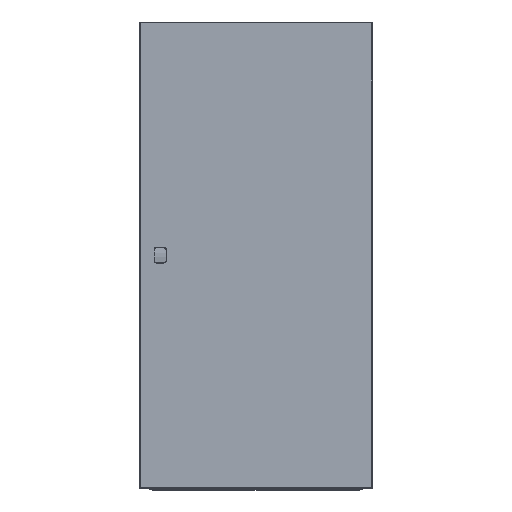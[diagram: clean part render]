
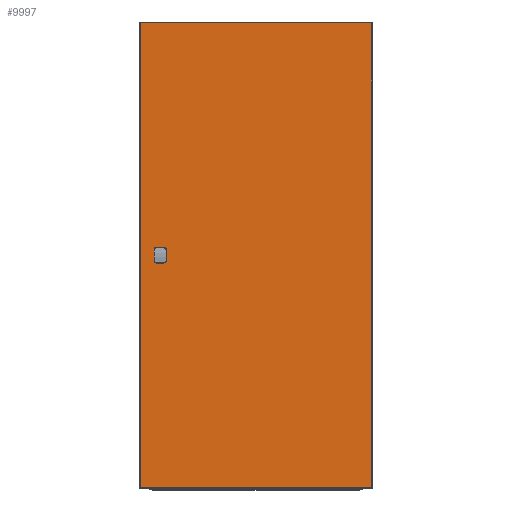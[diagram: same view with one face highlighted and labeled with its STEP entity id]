
A CAD part, top view. The second image highlights one B-rep face of the part: STEP entity #9997.
In plain terms, the highlighted planar face has unit normal (0, 0, 1).
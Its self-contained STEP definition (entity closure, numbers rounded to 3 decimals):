
#472=CIRCLE('',#11355,11.3);
#473=CIRCLE('',#11356,11.3);
#474=CIRCLE('',#11357,1.25);
#475=CIRCLE('',#11358,11.3);
#476=CIRCLE('',#11359,11.3);
#477=CIRCLE('',#11360,1.25);
#1462=ORIENTED_EDGE('',*,*,#3878,.F.);
#1463=ORIENTED_EDGE('',*,*,#3879,.F.);
#1464=ORIENTED_EDGE('',*,*,#3880,.F.);
#1465=ORIENTED_EDGE('',*,*,#3881,.F.);
#1466=ORIENTED_EDGE('',*,*,#3882,.F.);
#1467=ORIENTED_EDGE('',*,*,#3883,.F.);
#1468=ORIENTED_EDGE('',*,*,#3884,.F.);
#1469=ORIENTED_EDGE('',*,*,#3885,.F.);
#1470=ORIENTED_EDGE('',*,*,#3886,.F.);
#1471=ORIENTED_EDGE('',*,*,#3887,.F.);
#1472=ORIENTED_EDGE('',*,*,#3888,.F.);
#1473=ORIENTED_EDGE('',*,*,#3889,.F.);
#1474=ORIENTED_EDGE('',*,*,#3890,.F.);
#1475=ORIENTED_EDGE('',*,*,#3891,.F.);
#1476=ORIENTED_EDGE('',*,*,#3892,.F.);
#1477=ORIENTED_EDGE('',*,*,#3893,.F.);
#1478=ORIENTED_EDGE('',*,*,#3894,.T.);
#1479=ORIENTED_EDGE('',*,*,#3895,.F.);
#1480=ORIENTED_EDGE('',*,*,#3896,.F.);
#1481=ORIENTED_EDGE('',*,*,#3876,.T.);
#3876=EDGE_CURVE('',#5150,#5149,#6065,.T.);
#3878=EDGE_CURVE('',#5151,#5152,#472,.T.);
#3879=EDGE_CURVE('',#5153,#5151,#6067,.T.);
#3880=EDGE_CURVE('',#5154,#5153,#473,.T.);
#3881=EDGE_CURVE('',#5155,#5154,#6068,.T.);
#3882=EDGE_CURVE('',#5156,#5155,#6069,.T.);
#3883=EDGE_CURVE('',#5157,#5156,#474,.T.);
#3884=EDGE_CURVE('',#5158,#5157,#6070,.T.);
#3885=EDGE_CURVE('',#5159,#5158,#6071,.T.);
#3886=EDGE_CURVE('',#5160,#5159,#475,.T.);
#3887=EDGE_CURVE('',#5161,#5160,#6072,.T.);
#3888=EDGE_CURVE('',#5162,#5161,#476,.T.);
#3889=EDGE_CURVE('',#5163,#5162,#6073,.T.);
#3890=EDGE_CURVE('',#5164,#5163,#6074,.T.);
#3891=EDGE_CURVE('',#5165,#5164,#477,.T.);
#3892=EDGE_CURVE('',#5166,#5165,#6075,.T.);
#3893=EDGE_CURVE('',#5152,#5166,#6076,.T.);
#3894=EDGE_CURVE('',#5149,#5167,#6077,.T.);
#3895=EDGE_CURVE('',#5168,#5167,#6078,.T.);
#3896=EDGE_CURVE('',#5150,#5168,#6079,.T.);
#5149=VERTEX_POINT('',#16026);
#5150=VERTEX_POINT('',#16028);
#5151=VERTEX_POINT('',#16032);
#5152=VERTEX_POINT('',#16033);
#5153=VERTEX_POINT('',#16035);
#5154=VERTEX_POINT('',#16037);
#5155=VERTEX_POINT('',#16039);
#5156=VERTEX_POINT('',#16041);
#5157=VERTEX_POINT('',#16043);
#5158=VERTEX_POINT('',#16045);
#5159=VERTEX_POINT('',#16047);
#5160=VERTEX_POINT('',#16049);
#5161=VERTEX_POINT('',#16051);
#5162=VERTEX_POINT('',#16053);
#5163=VERTEX_POINT('',#16055);
#5164=VERTEX_POINT('',#16057);
#5165=VERTEX_POINT('',#16059);
#5166=VERTEX_POINT('',#16061);
#5167=VERTEX_POINT('',#16064);
#5168=VERTEX_POINT('',#16066);
#6065=LINE('',#16027,#7014);
#6067=LINE('',#16034,#7016);
#6068=LINE('',#16038,#7017);
#6069=LINE('',#16040,#7018);
#6070=LINE('',#16044,#7019);
#6071=LINE('',#16046,#7020);
#6072=LINE('',#16050,#7021);
#6073=LINE('',#16054,#7022);
#6074=LINE('',#16056,#7023);
#6075=LINE('',#16060,#7024);
#6076=LINE('',#16062,#7025);
#6077=LINE('',#16063,#7026);
#6078=LINE('',#16065,#7027);
#6079=LINE('',#16067,#7028);
#7014=VECTOR('',#13000,1000.);
#7016=VECTOR('',#13006,1000.);
#7017=VECTOR('',#13009,1000.);
#7018=VECTOR('',#13010,1000.);
#7019=VECTOR('',#13013,1000.);
#7020=VECTOR('',#13014,1000.);
#7021=VECTOR('',#13017,1000.);
#7022=VECTOR('',#13020,1000.);
#7023=VECTOR('',#13021,1000.);
#7024=VECTOR('',#13024,1000.);
#7025=VECTOR('',#13025,1000.);
#7026=VECTOR('',#13026,1000.);
#7027=VECTOR('',#13027,1000.);
#7028=VECTOR('',#13028,1000.);
#7963=EDGE_LOOP('',(#1462,#1463,#1464,#1465,#1466,#1467,#1468,#1469,#1470,
#1471,#1472,#1473,#1474,#1475,#1476,#1477));
#7964=EDGE_LOOP('',(#1478,#1479,#1480,#1481));
#8826=FACE_BOUND('',#7963,.T.);
#8827=FACE_BOUND('',#7964,.T.);
#9504=PLANE('',#11354);
#9997=ADVANCED_FACE('',(#8826,#8827),#9504,.F.);
#11354=AXIS2_PLACEMENT_3D('',#16030,#13002,#13003);
#11355=AXIS2_PLACEMENT_3D('',#16031,#13004,#13005);
#11356=AXIS2_PLACEMENT_3D('',#16036,#13007,#13008);
#11357=AXIS2_PLACEMENT_3D('',#16042,#13011,#13012);
#11358=AXIS2_PLACEMENT_3D('',#16048,#13015,#13016);
#11359=AXIS2_PLACEMENT_3D('',#16052,#13018,#13019);
#11360=AXIS2_PLACEMENT_3D('',#16058,#13022,#13023);
#13000=DIRECTION('',(0.,-1.,0.));
#13002=DIRECTION('',(0.,0.,-1.));
#13003=DIRECTION('',(-1.,0.,0.));
#13004=DIRECTION('',(0.,0.,1.));
#13005=DIRECTION('',(1.,0.,0.));
#13006=DIRECTION('',(0.,-1.,0.));
#13007=DIRECTION('',(0.,0.,1.));
#13008=DIRECTION('',(1.,0.,0.));
#13009=DIRECTION('',(-1.,0.,0.));
#13010=DIRECTION('',(0.,-1.,0.));
#13011=DIRECTION('',(0.,0.,1.));
#13012=DIRECTION('',(1.,0.,0.));
#13013=DIRECTION('',(0.,1.,0.));
#13014=DIRECTION('',(-1.,0.,0.));
#13015=DIRECTION('',(0.,0.,1.));
#13016=DIRECTION('',(1.,0.,0.));
#13017=DIRECTION('',(0.,1.,0.));
#13018=DIRECTION('',(0.,0.,1.));
#13019=DIRECTION('',(1.,0.,0.));
#13020=DIRECTION('',(1.,0.,0.));
#13021=DIRECTION('',(0.,1.,0.));
#13022=DIRECTION('',(0.,0.,1.));
#13023=DIRECTION('',(1.,0.,0.));
#13024=DIRECTION('',(0.,-1.,0.));
#13025=DIRECTION('',(1.,0.,0.));
#13026=DIRECTION('',(1.,0.,0.));
#13027=DIRECTION('',(0.,-1.,0.));
#13028=DIRECTION('',(1.,0.,0.));
#16026=CARTESIAN_POINT('',(-297.5,-597.5,0.));
#16027=CARTESIAN_POINT('',(-297.5,597.5,0.));
#16028=CARTESIAN_POINT('',(-297.5,597.5,0.));
#16030=CARTESIAN_POINT('',(-297.5,597.5,0.));
#16031=CARTESIAN_POINT('',(-247.5,0.,0.));
#16032=CARTESIAN_POINT('',(-257.65,-4.967,0.));
#16033=CARTESIAN_POINT('',(-252.467,-10.15,0.));
#16034=CARTESIAN_POINT('',(-257.65,4.967,0.));
#16035=CARTESIAN_POINT('',(-257.65,4.967,0.));
#16036=CARTESIAN_POINT('',(-247.5,0.,0.));
#16037=CARTESIAN_POINT('',(-252.467,10.15,0.));
#16038=CARTESIAN_POINT('',(-248.75,10.15,0.));
#16039=CARTESIAN_POINT('',(-248.75,10.15,0.));
#16040=CARTESIAN_POINT('',(-248.75,10.75,0.));
#16041=CARTESIAN_POINT('',(-248.75,10.75,0.));
#16042=CARTESIAN_POINT('',(-247.5,10.75,0.));
#16043=CARTESIAN_POINT('',(-246.25,10.75,0.));
#16044=CARTESIAN_POINT('',(-246.25,10.15,0.));
#16045=CARTESIAN_POINT('',(-246.25,10.15,0.));
#16046=CARTESIAN_POINT('',(-242.533,10.15,0.));
#16047=CARTESIAN_POINT('',(-242.533,10.15,0.));
#16048=CARTESIAN_POINT('',(-247.5,0.,0.));
#16049=CARTESIAN_POINT('',(-237.35,4.967,0.));
#16050=CARTESIAN_POINT('',(-237.35,-4.967,0.));
#16051=CARTESIAN_POINT('',(-237.35,-4.967,0.));
#16052=CARTESIAN_POINT('',(-247.5,0.,0.));
#16053=CARTESIAN_POINT('',(-242.533,-10.15,0.));
#16054=CARTESIAN_POINT('',(-246.25,-10.15,0.));
#16055=CARTESIAN_POINT('',(-246.25,-10.15,0.));
#16056=CARTESIAN_POINT('',(-246.25,-10.75,0.));
#16057=CARTESIAN_POINT('',(-246.25,-10.75,0.));
#16058=CARTESIAN_POINT('',(-247.5,-10.75,0.));
#16059=CARTESIAN_POINT('',(-248.75,-10.75,0.));
#16060=CARTESIAN_POINT('',(-248.75,-10.15,0.));
#16061=CARTESIAN_POINT('',(-248.75,-10.15,0.));
#16062=CARTESIAN_POINT('',(-252.467,-10.15,0.));
#16063=CARTESIAN_POINT('',(-297.5,-597.5,0.));
#16064=CARTESIAN_POINT('',(297.5,-597.5,0.));
#16065=CARTESIAN_POINT('',(297.5,597.5,0.));
#16066=CARTESIAN_POINT('',(297.5,597.5,0.));
#16067=CARTESIAN_POINT('',(-297.5,597.5,0.));
